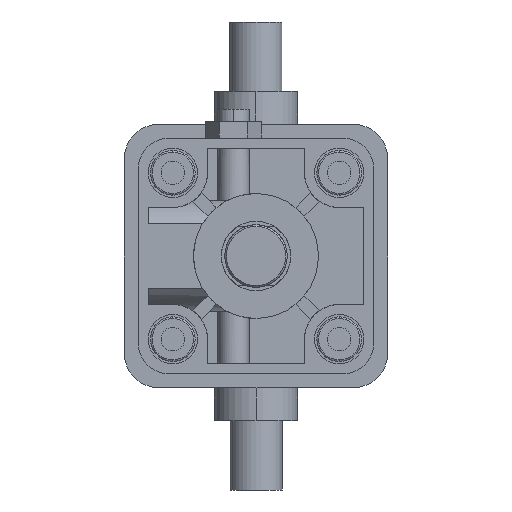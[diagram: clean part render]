
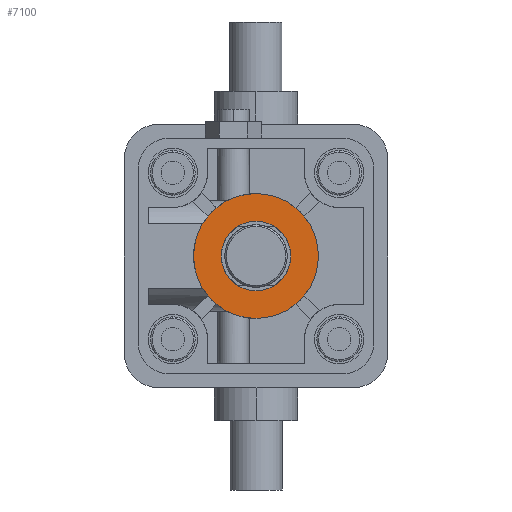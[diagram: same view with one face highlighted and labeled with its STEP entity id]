
A CAD part, left-side view. The second image highlights one B-rep face of the part: STEP entity #7100.
In plain terms, the highlighted planar face has unit normal (-1, 0, 0) as drawn and (1, 0, 0) by its records, which use the part's own axes.
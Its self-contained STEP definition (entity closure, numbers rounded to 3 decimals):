
#611 = AXIS2_PLACEMENT_3D ( 'NONE', #2500, #4820, #7841 ) ;
#860 = EDGE_LOOP ( 'NONE', ( #4370, #4559 ) ) ;
#863 = DIRECTION ( 'NONE',  ( 0., 0., 1. ) ) ;
#864 = ORIENTED_EDGE ( 'NONE', *, *, #1816, .T. ) ;
#1015 = CARTESIAN_POINT ( 'NONE',  ( 26., 0., 10. ) ) ;
#1562 = AXIS2_PLACEMENT_3D ( 'NONE', #8488, #4410, #6354 ) ;
#1816 = EDGE_CURVE ( 'NONE', #9870, #8417, #3679, .T. ) ;
#2252 = FACE_OUTER_BOUND ( 'NONE', #860, .T. ) ;
#2309 = DIRECTION ( 'NONE',  ( -1., 0., 0. ) ) ;
#2449 = DIRECTION ( 'NONE',  ( -1., 0., 0. ) ) ;
#2500 = CARTESIAN_POINT ( 'NONE',  ( 26., 10., 0. ) ) ;
#2913 = AXIS2_PLACEMENT_3D ( 'NONE', #9899, #2449, #863 ) ;
#3020 = AXIS2_PLACEMENT_3D ( 'NONE', #8717, #9765, #6226 ) ;
#3153 = FACE_BOUND ( 'NONE', #3487, .T. ) ;
#3195 = AXIS2_PLACEMENT_3D ( 'NONE', #4282, #2309, #8534 ) ;
#3487 = EDGE_LOOP ( 'NONE', ( #864, #10045 ) ) ;
#3679 = CIRCLE ( 'NONE', #3195, 10. ) ;
#4282 = CARTESIAN_POINT ( 'NONE',  ( 26., 0., 0. ) ) ;
#4370 = ORIENTED_EDGE ( 'NONE', *, *, #5464, .F. ) ;
#4410 = DIRECTION ( 'NONE',  ( -1., 0., 0. ) ) ;
#4559 = ORIENTED_EDGE ( 'NONE', *, *, #5843, .F. ) ;
#4567 = CIRCLE ( 'NONE', #2913, 18. ) ;
#4585 = VERTEX_POINT ( 'NONE', #8514 ) ;
#4820 = DIRECTION ( 'NONE',  ( -1., 0., 0. ) ) ;
#5114 = CARTESIAN_POINT ( 'NONE',  ( 26., 0., -10. ) ) ;
#5464 = EDGE_CURVE ( 'NONE', #6464, #4585, #4567, .T. ) ;
#5843 = EDGE_CURVE ( 'NONE', #4585, #6464, #7993, .T. ) ;
#5900 = CARTESIAN_POINT ( 'NONE',  ( 26., 0., 18. ) ) ;
#6186 = EDGE_CURVE ( 'NONE', #8417, #9870, #8957, .T. ) ;
#6226 = DIRECTION ( 'NONE',  ( 0., 0., 1. ) ) ;
#6354 = DIRECTION ( 'NONE',  ( 0., 0., 1. ) ) ;
#6464 = VERTEX_POINT ( 'NONE', #5900 ) ;
#7100 = ADVANCED_FACE ( 'NONE', ( #2252, #3153 ), #8184, .F. ) ;
#7841 = DIRECTION ( 'NONE',  ( 0., 0., 1. ) ) ;
#7993 = CIRCLE ( 'NONE', #1562, 18. ) ;
#8184 = PLANE ( 'NONE',  #611 ) ;
#8417 = VERTEX_POINT ( 'NONE', #5114 ) ;
#8488 = CARTESIAN_POINT ( 'NONE',  ( 26., 0., 0. ) ) ;
#8514 = CARTESIAN_POINT ( 'NONE',  ( 26., 0., -18. ) ) ;
#8534 = DIRECTION ( 'NONE',  ( 0., 0., 1. ) ) ;
#8717 = CARTESIAN_POINT ( 'NONE',  ( 26., 0., 0. ) ) ;
#8957 = CIRCLE ( 'NONE', #3020, 10. ) ;
#9765 = DIRECTION ( 'NONE',  ( -1., 0., 0. ) ) ;
#9870 = VERTEX_POINT ( 'NONE', #1015 ) ;
#9899 = CARTESIAN_POINT ( 'NONE',  ( 26., 0., 0. ) ) ;
#10045 = ORIENTED_EDGE ( 'NONE', *, *, #6186, .T. ) ;
